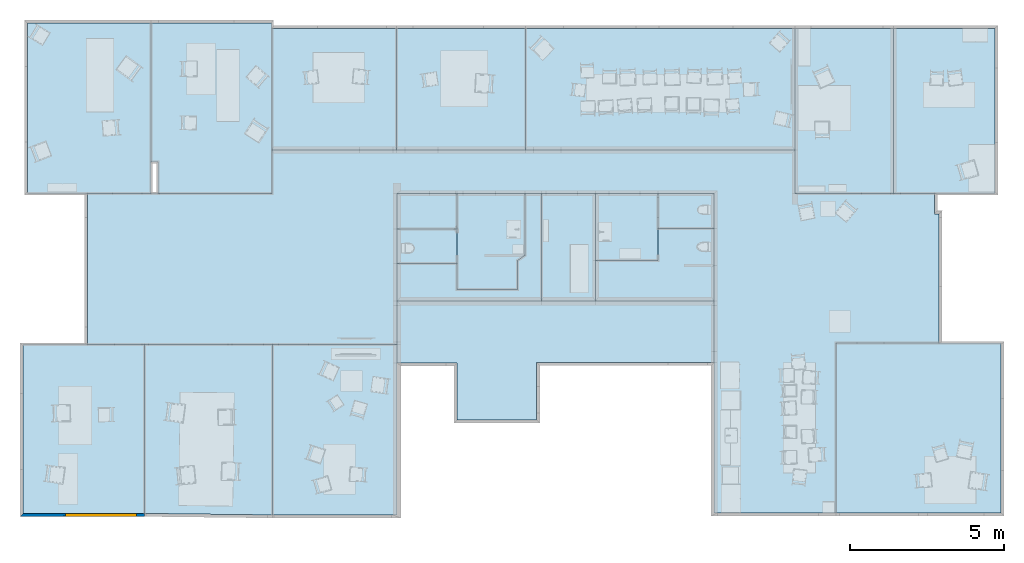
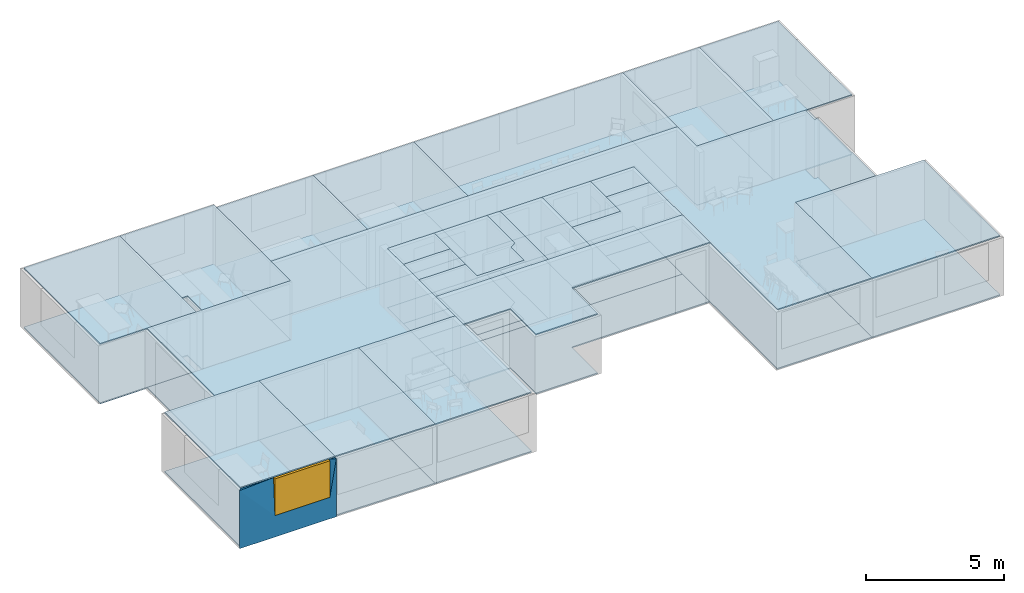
# One storey, part 1 of 26: 42 slabs, 1 wall, 1 window, 1 opening.
"""IFC2X3 building model written with IfcOpenShell, lengths in metres."""

from ifc_helpers import new_model, si_unit, direction, frame, origin_with_axes, place, context, subcontext, project, spatial, polyline, outline, extrude, type_object, element, fill, save


model = new_model("IFC2X3")

# Units and contexts
model_context = context("Model", 3, precision=1e-05, world=origin_with_axes(), true_north=direction((0.996, -0.093, 0.0)))
body_context = subcontext(model_context, "Body", "Model", "MODEL_VIEW")
ifc_project = project(units=[si_unit("AREAUNIT", "SQUARE_METRE"), si_unit("LENGTHUNIT", "METRE")], contexts=[model_context])

# Site, building, storey
site_placement = place(None, origin_with_axes())
site = spatial("IfcSite", under=ifc_project, at=site_placement, Name="Site", CompositionType="ELEMENT")
building_placement = place(site_placement, origin_with_axes())
building = spatial("IfcBuilding", under=site, at=building_placement, Name="Building", CompositionType="ELEMENT")
storey_placement = place(building_placement, frame((0.0, 0.0, 0.0500001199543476), z_axis=(0.0, 0.0, 1.0), x_axis=(1.0, 0.0, 0.0)))
storey = spatial("IfcBuildingStorey", under=building, at=storey_placement, Name="Story 0", CompositionType="ELEMENT", Elevation=0.0500000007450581)

# Slabs
slab_type_1 = type_object("IfcSlabType", PredefinedType="FLOOR")
slab_1_placement = place(storey_placement, frame((6.01094090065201, 11.0851807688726, 0.0), z_axis=(0.0, 0.0, 1.0), x_axis=(1.0, 0.0, 0.0)))
element("IfcSlab", 1, at=slab_1_placement, inside=storey, type_object=slab_type_1, Name="Floor", ObjectType="Floor:Floor-Grnd-Susp_65Scr-80Ins-100Blk-75PC", PredefinedType="FLOOR", context=body_context, shape_type="SweptSolid", body=[
    extrude(outline(polyline([(0.0, 0.0), (2.08169764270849e-06, -3.94189986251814), (4.04160221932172, -3.94189805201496), (4.0415996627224, 1.85342256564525e-06), (3.97890044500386, 1.46750180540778e-06), (0.0, 0.0)])), origin_with_axes(), (0.0, 0.0, -1.0), 0.05),
])
slab_type_2 = type_object("IfcSlabType", PredefinedType="FLOOR")
slab_2_placement = place(storey_placement, frame((16.5367739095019, 2.22078130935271, 0.0), z_axis=(0.0, 0.0, 1.0), x_axis=(1.0, 0.0, 0.0)))
element("IfcSlab", 2, at=slab_2_placement, inside=storey, type_object=slab_type_2, Name="Floor", ObjectType="Floor:Floor-Grnd-Susp_65Scr-80Ins-100Blk-75PC", PredefinedType="FLOOR", context=body_context, shape_type="SweptSolid", body=[
    extrude(outline(polyline([(0.0, 0.0), (-5.04898935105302e-07, 1.32092105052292), (2.02841079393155, 1.32092257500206), (2.02840944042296, 2.36955403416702), (3.85629787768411, 2.36955555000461), (3.85629803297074, 1.15562282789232), (3.8562976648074, 1.31238755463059e-06), (0.0, 0.0)])), origin_with_axes(), (0.0, 0.0, -1.0), 0.05),
])
slab_type_3 = type_object("IfcSlabType", PredefinedType="FLOOR")
slab_3_placement = place(storey_placement, frame((1.85908776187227, -4.68587820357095, 0.0), z_axis=(0.0, 0.0, 1.0), x_axis=(1.0, 0.0, 0.0)))
element("IfcSlab", 3, at=slab_3_placement, inside=storey, type_object=slab_type_3, Name="Floor", ObjectType="Floor:Floor-Grnd-Susp_65Scr-80Ins-100Blk-75PC", PredefinedType="FLOOR", context=body_context, shape_type="SweptSolid", body=[
    extrude(outline(polyline([(0.0, 0.0), (-1.23961148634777e-06, 5.50147169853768), (4.16546589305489, 5.50147228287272), (4.16546684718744, -0.0495664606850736), (0.0, 0.0)])), origin_with_axes(), (0.0, 0.0, -1.0), 0.05),
])
slab_type_4 = type_object("IfcSlabType", PredefinedType="FLOOR")
slab_4_placement = place(storey_placement, frame((10.0691789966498, 5.72888545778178, 0.0), z_axis=(0.0, 0.0, 1.0), x_axis=(1.0, 0.0, 0.0)))
element("IfcSlab", 4, at=slab_4_placement, inside=storey, type_object=slab_type_4, Name="Floor", ObjectType="Floor:Floor-Grnd-Susp_65Scr-80Ins-100Blk-75PC", PredefinedType="FLOOR", context=body_context, shape_type="SweptSolid", body=[
    extrude(outline(polyline([(0.0, 0.0), (7.79740659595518e-07, -1.15640346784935), (1.7222570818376e-06, -2.27992765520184), (2.36128180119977e-06, -3.50810581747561), (2.08470770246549e-06, -4.91329001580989), (-4.04462534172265, -4.91329137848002), (-8.21009242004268, -4.91329268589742), (-10.0644666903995, -4.91329330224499), (-10.064467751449, -2.72062529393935e-06), (-8.00516054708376, -1.65351910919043e-06), (-7.77246221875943, -1.87808775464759e-06), (-4.05828505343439, -6.28606839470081e-07), (-4.05828515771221, 1.41442382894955), (-0.0166218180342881, 1.4144256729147), (4.1888668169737, 1.4144275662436), (12.9510249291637, 1.41443259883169), (12.9510262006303, 5.16310710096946e-06), (16.1598804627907, 6.63926361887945e-06), (17.4891169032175, 6.36620012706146e-06), (17.489119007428, -0.668517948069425), (17.6346834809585, -0.668519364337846), (17.634685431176, -4.8712207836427), (14.277742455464, -4.87122205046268), (14.2777449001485, -10.3953955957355), (10.3238947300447, -10.395397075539), (10.3238941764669, -5.49747461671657), (10.3238925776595, -3.50810283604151), (10.3238929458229, -2.35248132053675), (10.3238927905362, -1.13854859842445), (10.3238922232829, 3.99701076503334e-06), (8.4960057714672, 3.25929900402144e-06), (6.4675926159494, 2.38139905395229e-06), (4.70630741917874, 1.76429526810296e-06), (4.16981944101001, 1.39924651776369e-06), (1.95834360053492, 6.04682311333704e-07), (0.0, 0.0)])), origin_with_axes(), (0.0, 0.0, -1.0), 0.05),
])
slab_type_5 = type_object("IfcSlabType", PredefinedType="FLOOR")
slab_5_placement = place(storey_placement, frame((14.7754877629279, 2.22078077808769, 0.0), z_axis=(0.0, 0.0, 1.0), x_axis=(1.0, 0.0, 0.0)))
element("IfcSlab", 5, at=slab_5_placement, inside=storey, type_object=slab_type_5, Name="Floor", ObjectType="Floor:Floor-Grnd-Susp_65Scr-80Ins-100Blk-75PC", PredefinedType="FLOOR", context=body_context, shape_type="SweptSolid", body=[
    extrude(outline(polyline([(0.0, 0.0), (-1.26126061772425e-06, 3.50810739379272), (1.76128384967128, 3.50810706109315), (1.76128564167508, 1.32092158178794), (1.76128606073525, -4.18538326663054e-07), (0.0, 0.0)])), origin_with_axes(), (0.0, 0.0, -1.0), 0.05),
])
slab_type_6 = type_object("IfcSlabType", PredefinedType="FLOOR")
slab_6_placement = place(storey_placement, frame((10.0691807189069, 3.44895780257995, 0.0), z_axis=(0.0, 0.0, 1.0), x_axis=(1.0, 0.0, 0.0)))
element("IfcSlab", 6, at=slab_6_placement, inside=storey, type_object=slab_type_6, Name="Floor", ObjectType="Floor:Floor-Grnd-Susp_65Scr-80Ins-100Blk-75PC", PredefinedType="FLOOR", context=body_context, shape_type="SweptSolid", body=[
    extrude(outline(polyline([(0.0, 0.0), (-9.42516422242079e-07, 1.12352418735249), (1.95834252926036, 1.12352336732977), (1.95834208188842, 0.996839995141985), (1.95834170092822, 7.76359831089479e-07), (0.0, 0.0)])), origin_with_axes(), (0.0, 0.0, -1.0), 0.05),
])
slab_type_7 = type_object("IfcSlabType", PredefinedType="FLOOR")
slab_7_placement = place(storey_placement, frame((18.565185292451, 4.59033564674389, 0.0), z_axis=(0.0, 0.0, 1.0), x_axis=(1.0, 0.0, 0.0)))
element("IfcSlab", 7, at=slab_7_placement, inside=storey, type_object=slab_type_7, Name="Floor", ObjectType="Floor:Floor-Grnd-Susp_65Scr-80Ins-100Blk-75PC", PredefinedType="FLOOR", context=body_context, shape_type="SweptSolid", body=[
    extrude(outline(polyline([(0.0, 0.0), (-5.0317874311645e-07, -1.04863081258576), (-2.02841188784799, -1.04863328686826), (-2.0284136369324, 1.13855266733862), (-5.24333973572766e-07, 1.1385530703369), (0.0, 0.0)])), origin_with_axes(), (0.0, 0.0, -1.0), 0.05),
])
slab_type_8 = type_object("IfcSlabType", PredefinedType="FLOOR")
slab_8_placement = place(storey_placement, frame((24.3469219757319, -4.66651020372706, 0.0), z_axis=(0.0, 0.0, 1.0), x_axis=(1.0, 0.0, 0.0)))
element("IfcSlab", 8, at=slab_8_placement, inside=storey, type_object=slab_type_8, Name="Floor", ObjectType="Floor:Floor-Grnd-Susp_65Scr-80Ins-100Blk-75PC", PredefinedType="FLOOR", context=body_context, shape_type="SweptSolid", body=[
    extrude(outline(polyline([(0.0, 0.0), (1.37598863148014e-06, 5.52417343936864), (3.35694245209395, 5.52417487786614), (5.37412532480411, 5.5241756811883), (5.37412779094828, 2.37336629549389e-06), (0.0, 0.0)])), origin_with_axes(), (0.0, 0.0, -1.0), 0.05),
])
slab_type_9 = type_object("IfcSlabType", PredefinedType="FLOOR")
slab_9_placement = place(storey_placement, frame((12.0275225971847, 5.72888606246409, 0.0), z_axis=(0.0, 0.0, 1.0), x_axis=(1.0, 0.0, 0.0)))
element("IfcSlab", 9, at=slab_9_placement, inside=storey, type_object=slab_type_9, Name="Floor", ObjectType="Floor:Floor-Grnd-Susp_65Scr-80Ins-100Blk-75PC", PredefinedType="FLOOR", context=body_context, shape_type="SweptSolid", body=[
    extrude(outline(polyline([(0.0, 0.0), (-2.98820834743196e-07, -1.15640480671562), (-1.95834187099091, -1.15640415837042), (-1.95834265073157, -6.90521071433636e-07), (0.0, 0.0)])), origin_with_axes(), (0.0, 0.0, -1.0), 0.05),
])
slab_type_10 = type_object("IfcSlabType", PredefinedType="FLOOR")
slab_10_placement = place(storey_placement, frame((6.0108938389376, 7.14330928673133, 0.0), z_axis=(0.0, 0.0, 1.0), x_axis=(1.0, 0.0, 0.0)))
element("IfcSlab", 10, at=slab_10_placement, inside=storey, type_object=slab_type_10, Name="Floor", ObjectType="Floor:Floor-Grnd-Susp_65Scr-80Ins-100Blk-75PC", PredefinedType="FLOOR", context=body_context, shape_type="SweptSolid", body=[
    extrude(outline(polyline([(0.0, 0.0), (5.36260116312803e-07, -1.41442497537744), (-3.71417706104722, -1.4144257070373), (-3.71417728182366, -0.387462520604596), (-3.94687549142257, -0.387462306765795), (-3.94687649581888, 4.12646384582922), (-1.15378159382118e-06, 4.12646584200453), (-9.20085887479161e-07, 3.94190741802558), (0.0, 0.0)])), origin_with_axes(), (0.0, 0.0, -1.0), 0.05),
])
slab_type_11 = type_object("IfcSlabType", PredefinedType="FLOOR")
slab_11_placement = place(storey_placement, frame((12.0275226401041, 5.72888653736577, 0.0), z_axis=(0.0, 0.0, 1.0), x_axis=(1.0, 0.0, 0.0)))
element("IfcSlab", 11, at=slab_11_placement, inside=storey, type_object=slab_type_11, Name="Floor", ObjectType="Floor:Floor-Grnd-Susp_65Scr-80Ins-100Blk-75PC", PredefinedType="FLOOR", context=body_context, shape_type="SweptSolid", body=[
    extrude(outline(polyline([(0.0, 0.0), (2.21147579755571, 3.19662531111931e-07), (2.21147691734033, -2.01476330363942), (1.95910112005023, -2.18755336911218), (1.9591003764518, -3.1212481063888), (2.50877418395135e-07, -3.12124928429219), (7.72453729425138e-07, -2.27992756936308), (1.60691202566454e-07, -1.28308873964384), (-3.41740214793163e-07, -1.1564052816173), (0.0, 0.0)])), origin_with_axes(), (0.0, 0.0, -1.0), 0.05),
])
slab_type_12 = type_object("IfcSlabType", PredefinedType="FLOOR")
slab_12_placement = place(storey_placement, frame((29.5232917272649, 11.0953706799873, 0.0), z_axis=(0.0, 0.0, 1.0), x_axis=(1.0, 0.0, 0.0)))
element("IfcSlab", 12, at=slab_12_placement, inside=storey, type_object=slab_type_12, Name="Floor", ObjectType="Floor:Floor-Grnd-Susp_65Scr-80Ins-100Blk-75PC", PredefinedType="FLOOR", context=body_context, shape_type="SweptSolid", body=[
    extrude(outline(polyline([(0.0, 0.0), (3.72006473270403e-06, -5.36647891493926), (-1.96499582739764, -5.36647885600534), (-3.29423226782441, -5.36647858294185), (-3.29423218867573, -1.13576348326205e-08), (0.0, 0.0)])), origin_with_axes(), (0.0, 0.0, -1.0), 0.05),
])
slab_type_13 = type_object("IfcSlabType", PredefinedType="FLOOR")
slab_13_placement = place(storey_placement, frame((-2.09511570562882, 0.815591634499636, 0.0), z_axis=(0.0, 0.0, 1.0), x_axis=(1.0, 0.0, 0.0)))
element("IfcSlab", 13, at=slab_13_placement, inside=storey, type_object=slab_type_13, Name="Floor", ObjectType="Floor:Floor-Grnd-Susp_65Scr-80Ins-100Blk-75PC", PredefinedType="FLOOR", context=body_context, shape_type="SweptSolid", body=[
    extrude(outline(polyline([(0.0, 0.0), (2.09982801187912, 5.21037151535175e-07), (3.95420228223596, 1.13738473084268e-06), (3.95420299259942, -5.50146979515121), (1.78962207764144e-06, -5.50147091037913), (0.0, 0.0)])), origin_with_axes(), (0.0, 0.0, -1.0), 0.05),
])
slab_type_14 = type_object("IfcSlabType", PredefinedType="FLOOR")
slab_14_placement = place(storey_placement, frame((23.0202058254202, 7.14331788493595, 0.0), z_axis=(0.0, 0.0, 1.0), x_axis=(1.0, 0.0, 0.0)))
element("IfcSlab", 14, at=slab_14_placement, inside=storey, type_object=slab_type_14, Name="Floor", ObjectType="Floor:Floor-Grnd-Susp_65Scr-80Ins-100Blk-75PC", PredefinedType="FLOOR", context=body_context, shape_type="SweptSolid", body=[
    extrude(outline(polyline([(0.0, 0.0), (-5.91910836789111e-07, 3.95205083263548), (3.20885362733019, 3.95205183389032), (3.20885363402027, -1.41442578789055), (1.27146657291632e-06, -1.41442743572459), (0.0, 0.0)])), origin_with_axes(), (0.0, 0.0, -1.0), 0.05),
])
slab_type_15 = type_object("IfcSlabType", PredefinedType="FLOOR")
slab_15_placement = place(storey_placement, frame((14.7754876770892, 2.22077982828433, 0.0), z_axis=(0.0, 0.0, 1.0), x_axis=(1.0, 0.0, 0.0)))
element("IfcSlab", 15, at=slab_15_placement, inside=storey, type_object=slab_type_15, Name="Floor", ObjectType="Floor:Floor-Grnd-Susp_65Scr-80Ins-100Blk-75PC", PredefinedType="FLOOR", context=body_context, shape_type="SweptSolid", body=[
    extrude(outline(polyline([(0.0, 0.0), (-4.70630824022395, -2.53751478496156e-07), (-4.70630695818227, 1.22817797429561), (-2.74796525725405, 1.22817875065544), (-2.74796470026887, 0.386858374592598), (-0.788864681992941, 0.386858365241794), (-0.788863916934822, 1.32055333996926), (-0.53648712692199, 1.49334379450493), (-0.536489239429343, 3.50810702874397), (-1.26126061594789e-06, 3.50810739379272), (0.0, 0.0)])), origin_with_axes(), (0.0, 0.0, -1.0), 0.05),
])
slab_type_16 = type_object("IfcSlabType", PredefinedType="FLOOR")
slab_16_placement = place(storey_placement, frame((2.06401822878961, 6.75584699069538, 0.0), z_axis=(0.0, 0.0, 1.0), x_axis=(1.0, 0.0, 0.0)))
element("IfcSlab", 16, at=slab_16_placement, inside=storey, type_object=slab_type_16, Name="Floor", ObjectType="Floor:Floor-Grnd-Susp_65Scr-80Ins-100Blk-75PC", PredefinedType="FLOOR", context=body_context, shape_type="SweptSolid", body=[
    extrude(outline(polyline([(0.0, 0.0), (2.10743722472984e-07, -1.02696462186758), (-2.05930694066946, -1.02696377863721), (-4.0181853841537, -1.02696488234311), (-4.01818687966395, 4.5139254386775), (-1.15600838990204e-06, 4.51392712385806), (0.0, 0.0)])), origin_with_axes(), (0.0, 0.0, -1.0), 0.05),
])
slab_type_17 = type_object("IfcSlabType", PredefinedType="FLOOR")
slab_17_placement = place(storey_placement, frame((14.2580458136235, 7.14331302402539, 0.0), z_axis=(0.0, 0.0, 1.0), x_axis=(1.0, 0.0, 0.0)))
element("IfcSlab", 17, at=slab_17_placement, inside=storey, type_object=slab_type_17, Name="Floor", ObjectType="Floor:Floor-Grnd-Susp_65Scr-80Ins-100Blk-75PC", PredefinedType="FLOOR", context=body_context, shape_type="SweptSolid", body=[
    extrude(outline(polyline([(0.0, 0.0), (-9.20085886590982e-07, 3.94190741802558), (8.76215760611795, 3.95205681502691), (8.76216001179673, 4.86091056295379e-06), (0.0, 0.0)])), origin_with_axes(), (0.0, 0.0, -1.0), 0.05),
])
slab_type_18 = type_object("IfcSlabType", PredefinedType="FLOOR")
slab_18_placement = place(storey_placement, frame((18.5651848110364, 5.72888919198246, 0.0), z_axis=(0.0, 0.0, 1.0), x_axis=(1.0, 0.0, 0.0)))
element("IfcSlab", 18, at=slab_18_placement, inside=storey, type_object=slab_type_18, Name="Floor", ObjectType="Floor:Floor-Grnd-Susp_65Scr-80Ins-100Blk-75PC", PredefinedType="FLOOR", context=body_context, shape_type="SweptSolid", body=[
    extrude(outline(polyline([(0.0, 0.0), (1.82788450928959, 4.34487605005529e-07), (1.82788697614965, -1.13855233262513), (4.38495213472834e-07, -1.13855402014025), (0.0, 0.0)])), origin_with_axes(), (0.0, 0.0, -1.0), 0.05),
])
slab_type_19 = type_object("IfcSlabType", PredefinedType="FLOOR")
slab_19_placement = place(storey_placement, frame((10.0525571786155, 7.14331113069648, 0.0), z_axis=(0.0, 0.0, 1.0), x_axis=(1.0, 0.0, 0.0)))
element("IfcSlab", 19, at=slab_19_placement, inside=storey, type_object=slab_type_19, Name="Floor", ObjectType="Floor:Floor-Grnd-Susp_65Scr-80Ins-100Blk-75PC", PredefinedType="FLOOR", context=body_context, shape_type="SweptSolid", body=[
    extrude(outline(polyline([(0.0, 0.0), (-1.86988923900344e-06, 3.94190750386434), (4.20548771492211, 3.94190931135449), (4.20548872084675, 2.84313225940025e-06), (0.0, 0.0)])), origin_with_axes(), (0.0, 0.0, -1.0), 0.05),
])
slab_type_20 = type_object("IfcSlabType", PredefinedType="FLOOR")
slab_20_placement = place(storey_placement, frame((12.0283741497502, 0.210007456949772, 0.0), z_axis=(0.0, 0.0, 1.0), x_axis=(1.0, 0.0, 0.0)))
element("IfcSlab", 20, at=slab_20_placement, inside=storey, type_object=slab_type_20, Name="Floor", ObjectType="Floor:Floor-Grnd-Susp_65Scr-80Ins-100Blk-75PC", PredefinedType="FLOOR", context=body_context, shape_type="SweptSolid", body=[
    extrude(outline(polyline([(0.0, 0.0), (-1.95919295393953, -5.68695917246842e-07), (-1.95919306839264, 0.605587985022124), (-1.95919279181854, 2.0107721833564), (2.74711361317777, 2.01077332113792), (4.50839975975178, 2.01077385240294), (8.3646973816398, 2.01077468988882), (8.3646990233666, 0.0214033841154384), (2.58978984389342, 0.0214015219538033), (2.5897901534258, -1.85760180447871), (9.8427632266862e-08, -1.85760298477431), (0.0, 0.0)])), origin_with_axes(), (0.0, 0.0, -1.0), 0.05),
])
slab_type_21 = type_object("IfcSlabType", PredefinedType="FLOOR")
slab_21_placement = place(storey_placement, frame((6.02455551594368, -4.73544522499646, 0.0), z_axis=(0.0, 0.0, 1.0), x_axis=(1.0, 0.0, 0.0)))
element("IfcSlab", 21, at=slab_21_placement, inside=storey, type_object=slab_type_21, Name="Floor", ObjectType="Floor:Floor-Grnd-Susp_65Scr-80Ins-100Blk-75PC", PredefinedType="FLOOR", context=body_context, shape_type="SweptSolid", body=[
    extrude(outline(polyline([(0.0, 0.0), (-2.30372866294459e-06, 5.55103970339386), (4.04462556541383, 5.55104066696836), (4.04462569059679, 4.94545223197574), (4.04462742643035, 1.36267013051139e-06), (0.0, 0.0)])), origin_with_axes(), (0.0, 0.0, -1.0), 0.05),
])
slab_type_22 = type_object("IfcSlabType", PredefinedType="ROOF")
slab_22_placement = place(storey_placement, frame((6.01094090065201, 11.0851807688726, 2.57293934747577), z_axis=(0.0, 0.0, 1.0), x_axis=(1.0, 0.0, 0.0)))
element("IfcSlab", 22, at=slab_22_placement, inside=storey, type_object=slab_type_22, Name="Ceiling", PredefinedType="ROOF", context=body_context, shape_type="SweptSolid", body=[
    extrude(outline(polyline([(0.0, 0.0), (2.08169764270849e-06, -3.94189986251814), (4.04160221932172, -3.94189805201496), (4.0415996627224, 1.85342256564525e-06), (3.97890044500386, 1.46750180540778e-06), (0.0, 0.0)])), origin_with_axes(), (0.0, 0.0, 1.0), 0.05),
])
slab_type_23 = type_object("IfcSlabType", PredefinedType="ROOF")
slab_23_placement = place(storey_placement, frame((16.5367739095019, 2.22078130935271, 2.57293922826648), z_axis=(0.0, 0.0, 1.0), x_axis=(1.0, 0.0, 0.0)))
element("IfcSlab", 23, at=slab_23_placement, inside=storey, type_object=slab_type_23, Name="Ceiling", PredefinedType="ROOF", context=body_context, shape_type="SweptSolid", body=[
    extrude(outline(polyline([(0.0, 0.0), (-5.04898935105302e-07, 1.32092105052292), (2.02841079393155, 1.32092257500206), (2.02840944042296, 2.36955403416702), (3.85629787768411, 2.36955555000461), (3.85629803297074, 1.15562282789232), (3.8562976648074, 1.31238755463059e-06), (0.0, 0.0)])), origin_with_axes(), (0.0, 0.0, 1.0), 0.05),
])
slab_type_24 = type_object("IfcSlabType", PredefinedType="ROOF")
slab_24_placement = place(storey_placement, frame((1.85908776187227, -4.68587820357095, 2.57293922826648), z_axis=(0.0, 0.0, 1.0), x_axis=(1.0, 0.0, 0.0)))
element("IfcSlab", 24, at=slab_24_placement, inside=storey, type_object=slab_type_24, Name="Ceiling", PredefinedType="ROOF", context=body_context, shape_type="SweptSolid", body=[
    extrude(outline(polyline([(0.0, 0.0), (-1.23961148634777e-06, 5.50147169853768), (4.16546589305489, 5.50147228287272), (4.16546684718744, -0.0495664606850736), (0.0, 0.0)])), origin_with_axes(), (0.0, 0.0, 1.0), 0.05),
])
slab_type_25 = type_object("IfcSlabType", PredefinedType="ROOF")
slab_25_placement = place(storey_placement, frame((10.0691789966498, 5.72888545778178, 2.57293922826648), z_axis=(0.0, 0.0, 1.0), x_axis=(1.0, 0.0, 0.0)))
element("IfcSlab", 25, at=slab_25_placement, inside=storey, type_object=slab_type_25, Name="Ceiling", PredefinedType="ROOF", context=body_context, shape_type="SweptSolid", body=[
    extrude(outline(polyline([(0.0, 0.0), (7.79740659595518e-07, -1.15640346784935), (1.7222570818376e-06, -2.27992765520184), (2.36128180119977e-06, -3.50810581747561), (2.08470770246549e-06, -4.91329001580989), (-4.04462534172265, -4.91329137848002), (-8.21009242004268, -4.91329268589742), (-10.0644666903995, -4.91329330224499), (-10.064467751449, -2.72062529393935e-06), (-8.00516054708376, -1.65351910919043e-06), (-7.77246221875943, -1.87808775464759e-06), (-4.05828505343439, -6.28606839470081e-07), (-4.05828515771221, 1.41442382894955), (-0.0166218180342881, 1.4144256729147), (4.1888668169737, 1.4144275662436), (12.9510249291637, 1.41443259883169), (12.9510262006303, 5.16310710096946e-06), (16.1598804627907, 6.63926361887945e-06), (17.4891169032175, 6.36620012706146e-06), (17.489119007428, -0.668517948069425), (17.6346834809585, -0.668519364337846), (17.634685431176, -4.8712207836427), (14.277742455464, -4.87122205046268), (14.2777449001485, -10.3953955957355), (10.3238947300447, -10.395397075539), (10.3238941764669, -5.49747461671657), (10.3238925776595, -3.50810283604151), (10.3238929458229, -2.35248132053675), (10.3238927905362, -1.13854859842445), (10.3238922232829, 3.99701076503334e-06), (8.4960057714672, 3.25929900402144e-06), (6.4675926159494, 2.38139905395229e-06), (4.70630741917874, 1.76429526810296e-06), (4.16981944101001, 1.39924651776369e-06), (1.95834360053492, 6.04682311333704e-07), (0.0, 0.0)])), origin_with_axes(), (0.0, 0.0, 1.0), 0.05),
])
slab_type_26 = type_object("IfcSlabType", PredefinedType="ROOF")
slab_26_placement = place(storey_placement, frame((14.7754877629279, 2.22078077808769, 2.57293922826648), z_axis=(0.0, 0.0, 1.0), x_axis=(1.0, 0.0, 0.0)))
element("IfcSlab", 26, at=slab_26_placement, inside=storey, type_object=slab_type_26, Name="Ceiling", PredefinedType="ROOF", context=body_context, shape_type="SweptSolid", body=[
    extrude(outline(polyline([(0.0, 0.0), (-1.26126061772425e-06, 3.50810739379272), (1.76128384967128, 3.50810706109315), (1.76128564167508, 1.32092158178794), (1.76128606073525, -4.18538326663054e-07), (0.0, 0.0)])), origin_with_axes(), (0.0, 0.0, 1.0), 0.05),
])
slab_type_27 = type_object("IfcSlabType", PredefinedType="ROOF")
slab_27_placement = place(storey_placement, frame((10.0691807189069, 3.44895780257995, 2.57293922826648), z_axis=(0.0, 0.0, 1.0), x_axis=(1.0, 0.0, 0.0)))
element("IfcSlab", 27, at=slab_27_placement, inside=storey, type_object=slab_type_27, Name="Ceiling", PredefinedType="ROOF", context=body_context, shape_type="SweptSolid", body=[
    extrude(outline(polyline([(0.0, 0.0), (-9.42516422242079e-07, 1.12352418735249), (1.95834252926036, 1.12352336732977), (1.95834208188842, 0.996839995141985), (1.95834170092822, 7.76359831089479e-07), (0.0, 0.0)])), origin_with_axes(), (0.0, 0.0, 1.0), 0.05),
])
slab_type_28 = type_object("IfcSlabType", PredefinedType="ROOF")
slab_28_placement = place(storey_placement, frame((18.565185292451, 4.59033564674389, 2.57293922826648), z_axis=(0.0, 0.0, 1.0), x_axis=(1.0, 0.0, 0.0)))
element("IfcSlab", 28, at=slab_28_placement, inside=storey, type_object=slab_type_28, Name="Ceiling", PredefinedType="ROOF", context=body_context, shape_type="SweptSolid", body=[
    extrude(outline(polyline([(0.0, 0.0), (-5.0317874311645e-07, -1.04863081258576), (-2.02841188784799, -1.04863328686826), (-2.0284136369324, 1.13855266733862), (-5.24333973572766e-07, 1.1385530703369), (0.0, 0.0)])), origin_with_axes(), (0.0, 0.0, 1.0), 0.05),
])
slab_type_29 = type_object("IfcSlabType", PredefinedType="ROOF")
slab_29_placement = place(storey_placement, frame((24.3469219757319, -4.66651020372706, 2.57293922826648), z_axis=(0.0, 0.0, 1.0), x_axis=(1.0, 0.0, 0.0)))
element("IfcSlab", 29, at=slab_29_placement, inside=storey, type_object=slab_type_29, Name="Ceiling", PredefinedType="ROOF", context=body_context, shape_type="SweptSolid", body=[
    extrude(outline(polyline([(0.0, 0.0), (1.37598863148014e-06, 5.52417343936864), (3.35694245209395, 5.52417487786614), (5.37412532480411, 5.5241756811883), (5.37412779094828, 2.37336629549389e-06), (0.0, 0.0)])), origin_with_axes(), (0.0, 0.0, 1.0), 0.05),
])
slab_type_30 = type_object("IfcSlabType", PredefinedType="ROOF")
slab_30_placement = place(storey_placement, frame((12.0275225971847, 5.72888606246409, 2.57293922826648), z_axis=(0.0, 0.0, 1.0), x_axis=(1.0, 0.0, 0.0)))
element("IfcSlab", 30, at=slab_30_placement, inside=storey, type_object=slab_type_30, Name="Ceiling", PredefinedType="ROOF", context=body_context, shape_type="SweptSolid", body=[
    extrude(outline(polyline([(0.0, 0.0), (-2.98820834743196e-07, -1.15640480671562), (-1.95834187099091, -1.15640415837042), (-1.95834265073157, -6.90521071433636e-07), (0.0, 0.0)])), origin_with_axes(), (0.0, 0.0, 1.0), 0.05),
])
slab_type_31 = type_object("IfcSlabType", PredefinedType="ROOF")
slab_31_placement = place(storey_placement, frame((6.0108938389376, 7.14330928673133, 2.57293922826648), z_axis=(0.0, 0.0, 1.0), x_axis=(1.0, 0.0, 0.0)))
element("IfcSlab", 31, at=slab_31_placement, inside=storey, type_object=slab_type_31, Name="Ceiling", PredefinedType="ROOF", context=body_context, shape_type="SweptSolid", body=[
    extrude(outline(polyline([(0.0, 0.0), (5.36260116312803e-07, -1.41442497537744), (-3.71417706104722, -1.4144257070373), (-3.71417728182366, -0.387462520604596), (-3.94687549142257, -0.387462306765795), (-3.94687649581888, 4.12646384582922), (-1.15378159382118e-06, 4.12646584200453), (-9.20085887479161e-07, 3.94190741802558), (0.0, 0.0)])), origin_with_axes(), (0.0, 0.0, 1.0), 0.05),
])
slab_type_32 = type_object("IfcSlabType", PredefinedType="ROOF")
slab_32_placement = place(storey_placement, frame((12.0275226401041, 5.72888653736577, 2.57293922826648), z_axis=(0.0, 0.0, 1.0), x_axis=(1.0, 0.0, 0.0)))
element("IfcSlab", 32, at=slab_32_placement, inside=storey, type_object=slab_type_32, Name="Ceiling", PredefinedType="ROOF", context=body_context, shape_type="SweptSolid", body=[
    extrude(outline(polyline([(0.0, 0.0), (2.21147579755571, 3.19662531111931e-07), (2.21147691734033, -2.01476330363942), (1.95910112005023, -2.18755336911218), (1.9591003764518, -3.1212481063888), (2.50877418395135e-07, -3.12124928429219), (7.72453729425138e-07, -2.27992756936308), (1.60691202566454e-07, -1.28308873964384), (-3.41740214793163e-07, -1.1564052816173), (0.0, 0.0)])), origin_with_axes(), (0.0, 0.0, 1.0), 0.05),
])
slab_type_33 = type_object("IfcSlabType", PredefinedType="ROOF")
slab_33_placement = place(storey_placement, frame((29.5232917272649, 11.0953706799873, 2.57293922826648), z_axis=(0.0, 0.0, 1.0), x_axis=(1.0, 0.0, 0.0)))
element("IfcSlab", 33, at=slab_33_placement, inside=storey, type_object=slab_type_33, Name="Ceiling", PredefinedType="ROOF", context=body_context, shape_type="SweptSolid", body=[
    extrude(outline(polyline([(0.0, 0.0), (3.72006473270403e-06, -5.36647891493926), (-1.96499582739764, -5.36647885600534), (-3.29423226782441, -5.36647858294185), (-3.29423218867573, -1.13576348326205e-08), (0.0, 0.0)])), origin_with_axes(), (0.0, 0.0, 1.0), 0.05),
])
slab_type_34 = type_object("IfcSlabType", PredefinedType="ROOF")
slab_34_placement = place(storey_placement, frame((-2.09511570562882, 0.815591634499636, 2.57293922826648), z_axis=(0.0, 0.0, 1.0), x_axis=(1.0, 0.0, 0.0)))
element("IfcSlab", 34, at=slab_34_placement, inside=storey, type_object=slab_type_34, Name="Ceiling", PredefinedType="ROOF", context=body_context, shape_type="SweptSolid", body=[
    extrude(outline(polyline([(0.0, 0.0), (2.09982801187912, 5.21037151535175e-07), (3.95420228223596, 1.13738473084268e-06), (3.95420299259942, -5.50146979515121), (1.78962207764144e-06, -5.50147091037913), (0.0, 0.0)])), origin_with_axes(), (0.0, 0.0, 1.0), 0.05),
])
slab_type_35 = type_object("IfcSlabType", PredefinedType="ROOF")
slab_35_placement = place(storey_placement, frame((23.0202058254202, 7.14331788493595, 2.57293922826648), z_axis=(0.0, 0.0, 1.0), x_axis=(1.0, 0.0, 0.0)))
element("IfcSlab", 35, at=slab_35_placement, inside=storey, type_object=slab_type_35, Name="Ceiling", PredefinedType="ROOF", context=body_context, shape_type="SweptSolid", body=[
    extrude(outline(polyline([(0.0, 0.0), (-5.91910836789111e-07, 3.95205083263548), (3.20885362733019, 3.95205183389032), (3.20885363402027, -1.41442578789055), (1.27146657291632e-06, -1.41442743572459), (0.0, 0.0)])), origin_with_axes(), (0.0, 0.0, 1.0), 0.05),
])
slab_type_36 = type_object("IfcSlabType", PredefinedType="ROOF")
slab_36_placement = place(storey_placement, frame((14.7754876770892, 2.22077982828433, 2.57293922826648), z_axis=(0.0, 0.0, 1.0), x_axis=(1.0, 0.0, 0.0)))
element("IfcSlab", 36, at=slab_36_placement, inside=storey, type_object=slab_type_36, Name="Ceiling", PredefinedType="ROOF", context=body_context, shape_type="SweptSolid", body=[
    extrude(outline(polyline([(0.0, 0.0), (-4.70630824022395, -2.53751478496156e-07), (-4.70630695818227, 1.22817797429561), (-2.74796525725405, 1.22817875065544), (-2.74796470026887, 0.386858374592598), (-0.788864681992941, 0.386858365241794), (-0.788863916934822, 1.32055333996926), (-0.53648712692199, 1.49334379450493), (-0.536489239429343, 3.50810702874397), (-1.26126061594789e-06, 3.50810739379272), (0.0, 0.0)])), origin_with_axes(), (0.0, 0.0, 1.0), 0.05),
])
slab_type_37 = type_object("IfcSlabType", PredefinedType="ROOF")
slab_37_placement = place(storey_placement, frame((2.06401822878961, 6.75584699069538, 2.57293922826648), z_axis=(0.0, 0.0, 1.0), x_axis=(1.0, 0.0, 0.0)))
element("IfcSlab", 37, at=slab_37_placement, inside=storey, type_object=slab_type_37, Name="Ceiling", PredefinedType="ROOF", context=body_context, shape_type="SweptSolid", body=[
    extrude(outline(polyline([(0.0, 0.0), (2.10743722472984e-07, -1.02696462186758), (-2.05930694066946, -1.02696377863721), (-4.0181853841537, -1.02696488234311), (-4.01818687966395, 4.5139254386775), (-1.15600838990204e-06, 4.51392712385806), (0.0, 0.0)])), origin_with_axes(), (0.0, 0.0, 1.0), 0.05),
])
slab_type_38 = type_object("IfcSlabType", PredefinedType="ROOF")
slab_38_placement = place(storey_placement, frame((14.2580458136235, 7.14331302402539, 2.57293922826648), z_axis=(0.0, 0.0, 1.0), x_axis=(1.0, 0.0, 0.0)))
element("IfcSlab", 38, at=slab_38_placement, inside=storey, type_object=slab_type_38, Name="Ceiling", PredefinedType="ROOF", context=body_context, shape_type="SweptSolid", body=[
    extrude(outline(polyline([(0.0, 0.0), (-9.20085886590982e-07, 3.94190741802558), (8.76215760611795, 3.95205681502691), (8.76216001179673, 4.86091056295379e-06), (0.0, 0.0)])), origin_with_axes(), (0.0, 0.0, 1.0), 0.05),
])
slab_type_39 = type_object("IfcSlabType", PredefinedType="ROOF")
slab_39_placement = place(storey_placement, frame((18.5651848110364, 5.72888919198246, 2.57293922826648), z_axis=(0.0, 0.0, 1.0), x_axis=(1.0, 0.0, 0.0)))
element("IfcSlab", 39, at=slab_39_placement, inside=storey, type_object=slab_type_39, Name="Ceiling", PredefinedType="ROOF", context=body_context, shape_type="SweptSolid", body=[
    extrude(outline(polyline([(0.0, 0.0), (1.82788450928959, 4.34487605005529e-07), (1.82788697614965, -1.13855233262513), (4.38495213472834e-07, -1.13855402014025), (0.0, 0.0)])), origin_with_axes(), (0.0, 0.0, 1.0), 0.05),
])
slab_type_40 = type_object("IfcSlabType", PredefinedType="ROOF")
slab_40_placement = place(storey_placement, frame((10.0525571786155, 7.14331113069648, 2.57293922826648), z_axis=(0.0, 0.0, 1.0), x_axis=(1.0, 0.0, 0.0)))
element("IfcSlab", 40, at=slab_40_placement, inside=storey, type_object=slab_type_40, Name="Ceiling", PredefinedType="ROOF", context=body_context, shape_type="SweptSolid", body=[
    extrude(outline(polyline([(0.0, 0.0), (-1.86988923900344e-06, 3.94190750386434), (4.20548771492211, 3.94190931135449), (4.20548872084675, 2.84313225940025e-06), (0.0, 0.0)])), origin_with_axes(), (0.0, 0.0, 1.0), 0.05),
])
slab_type_41 = type_object("IfcSlabType", PredefinedType="ROOF")
slab_41_placement = place(storey_placement, frame((12.0283741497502, 0.210007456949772, 2.57293922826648), z_axis=(0.0, 0.0, 1.0), x_axis=(1.0, 0.0, 0.0)))
element("IfcSlab", 41, at=slab_41_placement, inside=storey, type_object=slab_type_41, Name="Ceiling", PredefinedType="ROOF", context=body_context, shape_type="SweptSolid", body=[
    extrude(outline(polyline([(0.0, 0.0), (-1.95919295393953, -5.68695917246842e-07), (-1.95919306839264, 0.605587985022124), (-1.95919279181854, 2.0107721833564), (2.74711361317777, 2.01077332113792), (4.50839975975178, 2.01077385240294), (8.3646973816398, 2.01077468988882), (8.3646990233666, 0.0214033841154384), (2.58978984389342, 0.0214015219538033), (2.5897901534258, -1.85760180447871), (9.8427632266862e-08, -1.85760298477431), (0.0, 0.0)])), origin_with_axes(), (0.0, 0.0, 1.0), 0.05),
])
slab_type_42 = type_object("IfcSlabType", PredefinedType="ROOF")
slab_42_placement = place(storey_placement, frame((6.02455551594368, -4.73544522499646, 2.57293922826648), z_axis=(0.0, 0.0, 1.0), x_axis=(1.0, 0.0, 0.0)))
element("IfcSlab", 42, at=slab_42_placement, inside=storey, type_object=slab_type_42, Name="Ceiling", PredefinedType="ROOF", context=body_context, shape_type="SweptSolid", body=[
    extrude(outline(polyline([(0.0, 0.0), (-2.30372866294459e-06, 5.55103970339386), (4.04462556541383, 5.55104066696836), (4.04462569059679, 4.94545223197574), (4.04462742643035, 1.36267013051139e-06), (0.0, 0.0)])), origin_with_axes(), (0.0, 0.0, 1.0), 0.05),
])

# Wall, opening, window
wall_type = type_object("IfcWallType", PredefinedType="STANDARD")
wall_placement = place(storey_placement, frame((-2.19511399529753, -4.78587921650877, 0.0), z_axis=(0.0, 0.0, 1.0), x_axis=(1.0, 0.0, 0.0)))
wall = element("IfcWallStandardCase", 43, at=wall_placement, inside=storey, type_object=wall_type, Name="Wall", context=body_context, shape_type="SweptSolid", body=[
    extrude(outline(polyline([(0.0, 0.0), (0.0999999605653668, 0.099999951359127), (4.0078191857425, 0.100001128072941), (4.05420151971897, 0.100001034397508), (4.05420145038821, 1.02443747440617e-06), (0.0, 0.0)])), origin_with_axes(), (0.0, 0.0, 1.0), 2.57293934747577),
])
opening_placement = place(wall_placement, frame((3.78676646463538, 0.100000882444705, 0.952752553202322), z_axis=(0.0, 0.0, 1.0), x_axis=(-0.999999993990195, 0.0, 0.0)))
opening = element("IfcOpeningElement", 44, at=opening_placement, cuts=wall, Name="OpeningElement", ObjectType="OPENING", context=body_context, shape_type="SweptSolid", body=[
    extrude(outline(polyline([(0.0, 0.0), (2.303132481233, 0.0), (2.303132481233, 1.62018670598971), (0.0, 1.62018670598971), (0.0, 0.0)])), frame((0.0, 0.0, 0.0), z_axis=(0.0, -1.0, 0.0), x_axis=(1.0, 0.0, 0.0)), (0.0, 0.0, -1.0), 0.100099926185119),
])
window_style = type_object("IfcWindowStyle", Name="a5630015-4e6b-4a6b-927a-a832827dc387", ConstructionType="ALUMINIUM", OperationType="SINGLE_PANEL", ParameterTakesPrecedence=True, Sizeable=True)
window_placement = place(opening_placement, origin_with_axes())
window = element("IfcWindow", 45, at=window_placement, inside=storey, type_object=window_style, Name="Window", OverallHeight=1.5, OverallWidth=0.5, context=body_context, shape_type="SweptSolid", body=[
    extrude(outline(polyline([(0.0, 0.0), (-2.30313222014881, 0.0), (-2.30313222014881, 1.62018668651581), (0.0, 1.62018668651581), (0.0, 0.0)])), frame((0.0, 0.0999999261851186, 0.0), z_axis=(0.0, 1.0, 0.0), x_axis=(-1.0, 0.0, 0.0)), (0.0, 0.0, -1.0), 0.0999999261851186),
])
fill(opening, window)

save(model, "model.ifc")
